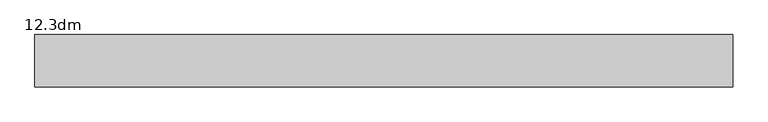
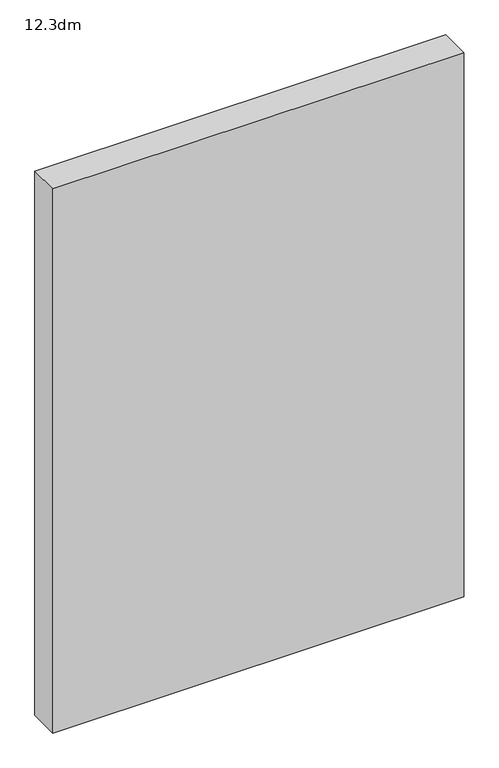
"""IFC4 building model written with IfcOpenShell, lengths in millimetres: proxy geometry, 12.3dm."""

from ifc_helpers import new_model, si_unit, origin, origin_with_axes, place, context, project, spatial, polyline, outline, extrude, source, transform, mapped, element, save


def proxy_12_3dm_ef83d142(model_context):
    return source(origin(), model_context, "Body", "SweptSolid", [
        extrude(outline(polyline([(8951.9489855, 12.0), (8951.9489855, 162.0), (10951.9489855, 162.0), (10951.9489855, 12.0), (8951.9489855, 12.0)])), origin_with_axes(), (0.0, 0.0, 1.0), 2800.0),
    ])


if __name__ == "__main__":
    model = new_model("IFC4")
    model_context = context("Model", 3, world=origin())
    ifc_project = project(units=[si_unit("LENGTHUNIT", "METRE", prefix="MILLI")], contexts=[model_context])
    site = spatial("IfcSite", under=ifc_project)
    building = spatial("IfcBuilding", under=site)
    placement = place(None, origin())
    proxy_12_3dm_shape = proxy_12_3dm_ef83d142(model_context)
    element("IfcBuildingElementProxy", 1, Name="12.3dm", ObjectType="12.3dm", at=placement, inside=building, context=model_context, shape_type="MappedRepresentation", body=[
        mapped(proxy_12_3dm_shape, transform((0.0, 0.0, 0.0), x_axis=(1.0, 0.0, 0.0), y_axis=(0.0, 1.0, 0.0), z_axis=(0.0, 0.0, 1.0))),
    ])
    save(model, "model.ifc")
